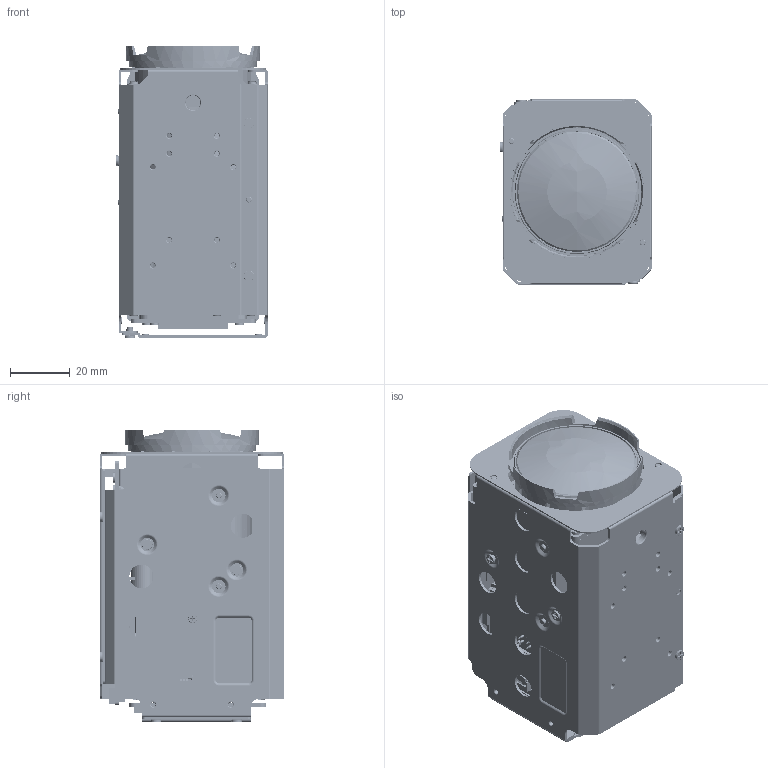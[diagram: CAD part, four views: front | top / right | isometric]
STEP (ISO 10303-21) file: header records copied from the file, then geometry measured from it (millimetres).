
FILE_DESCRIPTION(('FreeCAD Model'),'2;1');
FILE_NAME('Open CASCADE Shape Model','2022-09-05T13:53:02',(''),(''), 'Open CASCADE STEP processor 7.5','FreeCAD','Unknown');
FILE_SCHEMA(('AUTOMOTIVE_DESIGN { 1 0 10303 214 1 1 1 1 }'));
Length unit declared in the file: millimetre
Products named in the file (134): 18HDMI4K_ASM_681_ASM; F130_3D_105__131; F130_3D_105__19; F130_3D_105__020; F130_3D_105__021; F130_3D_105__022; F130_3D_105__023; F130_3D_105__024; F130_3D_105__025; F130_3D_105__026; F130_3D_105__027; F130_3D_105__028; F130_3D_105__029; F130_3D_105__030; F130_3D_105__031; F130_3D_105__032; F130_3D_105__033; F130_3D_105__034; F130_3D_105__035; F130_3D_105__036; F130_3D_105__037; F130_3D_105__038; F130_3D_105__039; F130_3D_105__040; F130_3D_105__041; F130_3D_105__042; F130_3D_105__043; F130_3D_105__044; F130_3D_105__045; F130_3D_105__046; F130_3D_105__047; F130_3D_105__048; F130_3D_105__049; F130_3D_105__050; F130_3D_105__051; F130_3D_105__052; F130_3D_105__053; F130_3D_105__054; F130_3D_105__055; F130_3D_105__056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
Assembly tree (145 placements, depth 3):
  18HDMI4K_ASM_681_ASM
    F130_3D_105__131
      F130_3D_105__19
      F130_3D_105__020
      F130_3D_105__021
      F130_3D_105__022
      F130_3D_105__023
      F130_3D_105__024
      F130_3D_105__025
      F130_3D_105__026
      F130_3D_105__027
      F130_3D_105__028
      F130_3D_105__029
      F130_3D_105__030
      F130_3D_105__031
      F130_3D_105__032
      F130_3D_105__033
      F130_3D_105__034
      F130_3D_105__035
      F130_3D_105__036
      F130_3D_105__037
      F130_3D_105__038
      F130_3D_105__039
      F130_3D_105__040
      F130_3D_105__041
      F130_3D_105__042
      F130_3D_105__043
      F130_3D_105__044
      F130_3D_105__045
      F130_3D_105__046
      F130_3D_105__047
      F130_3D_105__048
      F130_3D_105__049
      F130_3D_105__050
      F130_3D_105__051
      F130_3D_105__052
      F130_3D_105__053
      F130_3D_105__054
      F130_3D_105__055
      F130_3D_105__056
      F130_3D_105__057
      F130_3D_105__058
      F130_3D_105__059
      F130_3D_105__060
      F130_3D_105__061
      F130_3D_105__062
      F130_3D_105__063
      F130_3D_105__064
      F130_3D_105__065
      F130_3D_105__066
      F130_3D_105__067
      F130_3D_105__068
      F130_3D_105__069
      F130_3D_105__070
      F130_3D_105__071
      F130_3D_105__072
      F130_3D_105__073
      F130_3D_105__074
      F130_3D_105__075
      F130_3D_105__076
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Bounding box: 50.9 x 62 x 97.88 mm (x, y, z)
Volume: 25974.6 mm3; surface area: 100989.5 mm2
Topology: 29 solids, 144 shells, 5565 faces, 18210 edges, 12565 vertices
Faces by surface type: plane 4003, cylinder 1058, cone 272, torus 214, bspline 14, sphere 4
Entity records: 198287 total; most frequent: CARTESIAN_POINT 40914, ORIENTED_EDGE 31766, DIRECTION 30833, EDGE_CURVE 17410, LINE 13233, VECTOR 13233, VERTEX_POINT 12037, AXIS2_PLACEMENT_3D 8800
